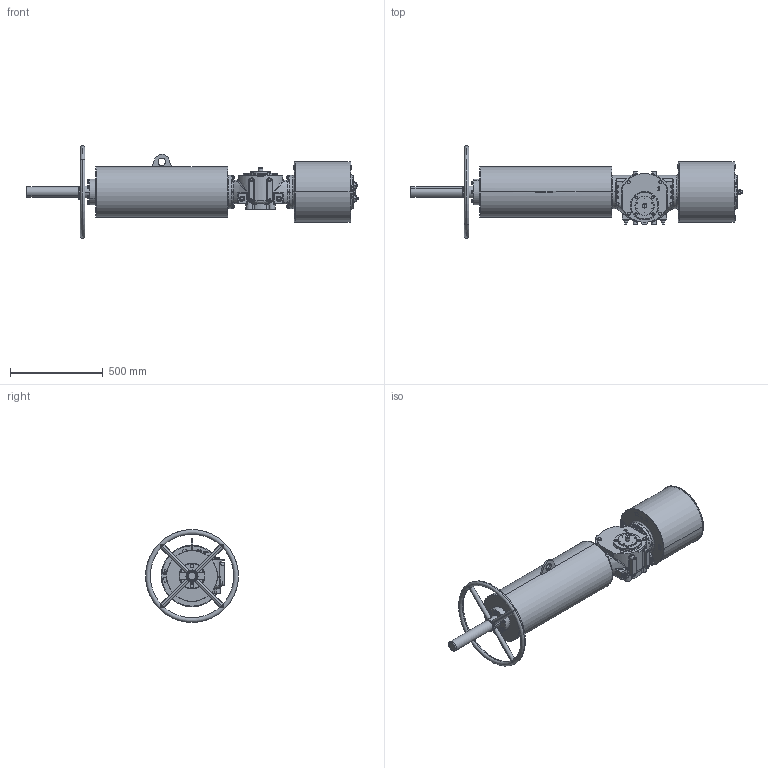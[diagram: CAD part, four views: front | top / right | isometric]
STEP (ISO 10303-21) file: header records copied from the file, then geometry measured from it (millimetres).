
FILE_DESCRIPTION (( 'STEP AP203' ), '1' );
FILE_NAME ('VTS2-300-SR-MS-FO.STEP', '2022-12-31T08:47:37', ( '' ), ( '' ), 'SwSTEP 2.0', 'SolidWorks 2020', '' );
FILE_SCHEMA (( 'CONFIG_CONTROL_DESIGN' ));
Length unit declared in the file: millimetre
Products named in the file (1): VTS2-300-SR-MS-FO
Bounding box: 1788.2 x 498.1 x 498.1 mm (x, y, z)
Volume: 80847604.3 mm3; surface area: 2423190.2 mm2
Topology: 30 solids, 33 shells, 2197 faces, 5733 edges, 3602 vertices
Faces by surface type: plane 796, cylinder 669, cone 435, bspline 161, sphere 72, torus 64
Entity records: 87997 total; most frequent: CARTESIAN_POINT 35803, ORIENTED_EDGE 11150, DIRECTION 10789, EDGE_CURVE 5575, AXIS2_PLACEMENT_3D 4385, VERTEX_POINT 3566, EDGE_LOOP 2443, CIRCLE 2348
